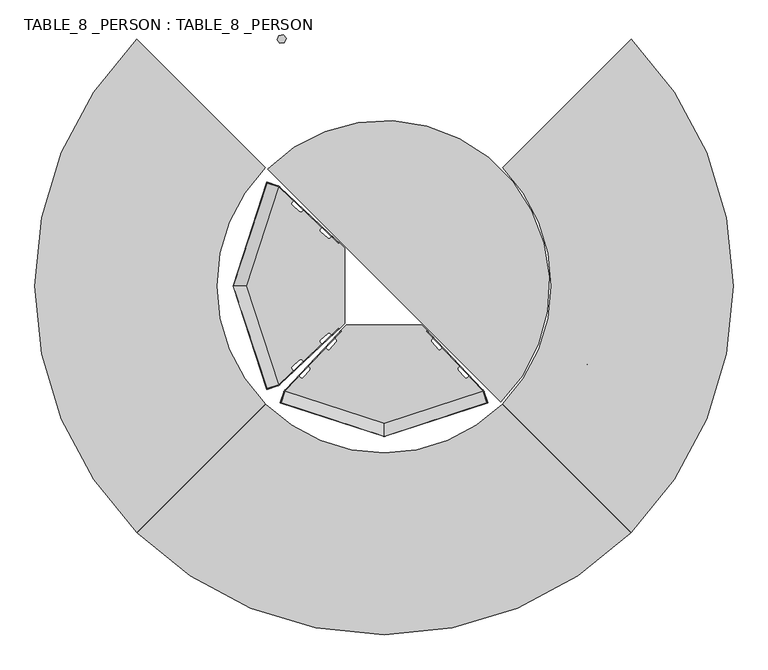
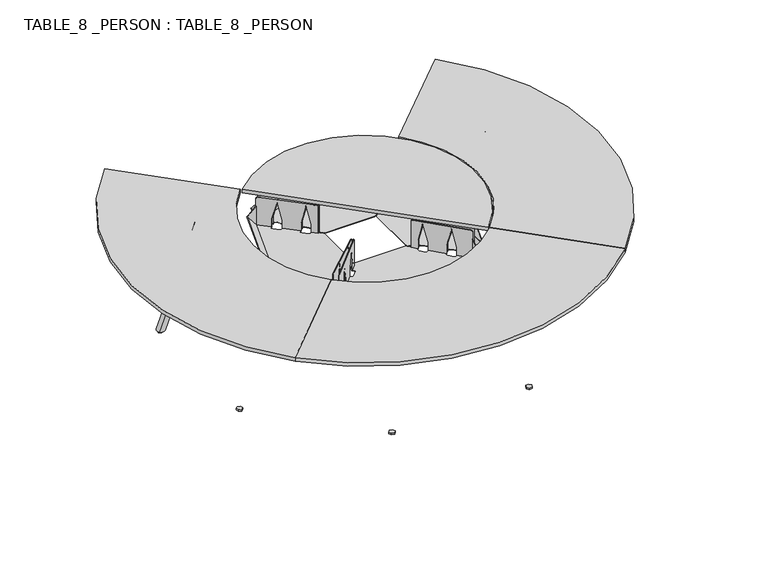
"""IFC4 building model written with IfcOpenShell, lengths in millimetres: furniture geometry, TABLE_8 _PERSON : TABLE_8 _PERSON."""

from ifc_helpers import new_model, si_unit, point, frame, frame_2d, origin, origin_with_axes, origin_2d, place, context, project, spatial, polyline, circle_curve, ellipse_curve, trimmed, segment, composite_curve, outline, extrude, faceted_brep, source, transform, mapped, element, save
from ifc_brep_helpers import plane_surface, cylinder_surface, advanced_brep


def table_8_person_table_8_person_3cccb7cd(model_context):
    return source(origin(), model_context, "Body", "SolidModel", [
        extrude(outline(composite_curve([segment(trimmed(circle_curve(frame_2d((-185.0, 10.6066017)), 10.6066017), [point((-185.0, 0.0))], [point((-195.6066017, 10.6066017))], False, "CARTESIAN"), True, "CONTINUOUS"), segment(polyline([(-195.6066017, 10.6066017), (-195.6066017, 362.2459003)]), True, "CONTINUOUS"), segment(trimmed(circle_curve(frame_2d((-185.0, 362.2459003)), 10.6066017), [point((-195.6066017, 362.2459003))], [point((-185.0, 372.8525021))], False, "CARTESIAN"), True, "CONTINUOUS"), segment(polyline([(-185.0, 372.8525021), (0.0, 372.8525021), (0.0, 277.9086309), (-56.7549269, 277.9086309), (-166.9244078, 249.3102854), (-178.5405648, 249.3102854)]), True, "CONTINUOUS"), segment(trimmed(circle_curve(frame_2d((-178.5405648, 246.2648038)), 3.0454817), [point((-178.5405648, 249.3102854))], [point((-178.5405648, 243.2193221))], True, "CARTESIAN"), True, "CONTINUOUS"), segment(polyline([(-178.5405648, 243.2193221), (-166.9244078, 243.2193221), (-56.7549269, 215.7127867), (0.0, 215.7127867), (0.0, 103.200083), (-56.7549269, 103.200083), (-167.2775765, 74.6455232), (-178.5405648, 74.6455232)]), True, "CONTINUOUS"), segment(trimmed(circle_curve(frame_2d((-178.5405648, 71.6000415)), 3.0454817), [point((-178.5405648, 74.6455232))], [point((-178.5405648, 68.5545599))], True, "CARTESIAN"), True, "CONTINUOUS"), segment(polyline([(-178.5405648, 68.5545599), (-166.9244078, 68.5545599), (-56.7549269, 42.7034974), (0.0, 42.7034974), (0.0, 0.0), (-185.0, 0.0)]), True, "CONTINUOUS")], self_intersect=False)), frame((-201.7755621, -192.7094281, 539.3933983), z_axis=(-0.6857490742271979, 0.7278380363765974, 0.0), x_axis=(0.0, 0.0, -1.0)), (0.0, 0.0, 1.0), 1.9997001),
        extrude(outline(polyline([(0.0, 0.0), (-132.3159489, 0.0), (-65.5066196, 52.2763246), (0.0, 0.0)])), frame((-473.6428903, -447.4124228, 539.3933983), z_axis=(-0.29237170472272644, 0.9563047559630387, 0.0), x_axis=(0.0, 0.0, -1.0)), (0.0, 0.0, 1.0), 1.5425279),
        extrude(outline(polyline([(-83.2876498, 1e-07), (20.1329987, 82.5329014), (0.5212478, -1e-07), (-83.2876498, 1e-07)])), frame((-523.7750547, 461.1263548, 604.4926008), z_axis=(0.29237170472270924, 0.956304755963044, 0.0), x_axis=(-0.5965010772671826, 0.18236868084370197, 0.7816189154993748)), (0.0, 0.0, 1.0), 1.5425279),
        extrude(outline(composite_curve([segment(trimmed(circle_curve(frame_2d((0.0, 10.6066018)), 10.6066017), [point((0.0, 21.2132035))], [point((10.6066017, 10.6066018))], False, "CARTESIAN"), True, "CONTINUOUS"), segment(polyline([(10.6066017, 10.6066018), (10.6066017, -341.0326968)]), True, "CONTINUOUS"), segment(trimmed(circle_curve(frame_2d((0.0, -341.0326968)), 10.6066017), [point((10.6066017, -341.0326968))], [point((0.0, -351.6392985))], False, "CARTESIAN"), True, "CONTINUOUS"), segment(polyline([(0.0, -351.6392985), (-185.0, -351.6392985), (-185.0, -256.6954274), (-128.2450731, -256.6954274), (-18.0755922, -228.0970819), (-6.4594352, -228.0970819)]), True, "CONTINUOUS"), segment(trimmed(circle_curve(frame_2d((-6.4594352, -225.0516002)), 3.0454817), [point((-6.4594352, -228.0970819))], [point((-6.4594352, -222.0061186))], True, "CARTESIAN"), True, "CONTINUOUS"), segment(polyline([(-6.4594352, -222.0061186), (-18.0755922, -222.0061186), (-128.2450731, -194.4995832), (-185.0, -194.4995832), (-185.0, -81.9868795), (-128.2450731, -81.9868795), (-17.7224235, -53.4323196), (-6.4594352, -53.4323196)]), True, "CONTINUOUS"), segment(trimmed(circle_curve(frame_2d((-6.4594352, -50.386838)), 3.0454817), [point((-6.4594352, -53.4323196))], [point((-6.4594352, -47.3413563))], True, "CARTESIAN"), True, "CONTINUOUS"), segment(polyline([(-6.4594352, -47.3413563), (-18.0755922, -47.3413563), (-128.2450731, -21.4902939), (-185.0, -21.4902939), (-185.0, 21.2132035), (0.0, 21.2132035)]), True, "CONTINUOUS")], self_intersect=False)), frame((-218.586631, 205.800905, 724.3933983), z_axis=(0.6857490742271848, 0.7278380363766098, 0.0), x_axis=(0.0, 0.0, 1.0)), (0.0, 0.0, 1.0), 1.9997001),
        faceted_brep([(-472.1347867, -447.4809246, 540.6789735), (-524.0859796, -464.3608904, 605.778176), (-525.5430827, -464.8343319, 604.4926008), (-473.5918898, -447.9543661, 539.3933983), (-619.1410863, 0.0, 539.3933983), (-617.5301528, 0.0, 540.6789735), (-676.5769126, 0.0, 604.4926008), (-674.965979, 0.0, 605.778176), (-472.1347867, 447.4809246, 540.6789735), (-473.5918898, 447.9543661, 539.3933983), (-525.5430827, 464.8343319, 604.4926008), (-524.0859796, 464.3608904, 605.778176)], [[[0, 1, 2, 3]], [[3, 4, 5, 0]], [[2, 6, 4, 3]], [[1, 7, 6, 2]], [[0, 5, 7, 1]], [[8, 9, 10, 11]], [[4, 9, 8, 5]], [[6, 10, 9, 4]], [[7, 11, 10, 6]], [[5, 8, 11, 7]]]),
        extrude(outline(composite_curve([segment(trimmed(circle_curve(frame_2d((-192.9679442, -161.0978547)), 18.7707035), [point((-175.0, -166.528535))], [point((-179.6950525, -174.3707464))], False, "CARTESIAN"), True, "CONTINUOUS"), segment(polyline([(-179.6950525, -174.3707464), (-231.6222067, -222.7110836), (-241.277154, -213.0561363)]), True, "CONTINUOUS"), segment(trimmed(circle_curve(frame_2d((-247.0943708, -220.2446609)), 9.2474265), [point((-241.277154, -213.0561363))], [point((-253.1635364, -213.2675465))], True, "CARTESIAN"), True, "CONTINUOUS"), segment(polyline([(-253.1635364, -213.2675465), (-286.4779331, -242.2055735)]), True, "CONTINUOUS"), segment(trimmed(circle_curve(frame_2d((-281.3853407, -248.0683312)), 7.7657212), [point((-286.4779331, -242.2055735))], [point((-287.2445195, -253.165041))], True, "CARTESIAN"), True, "CONTINUOUS"), segment(polyline([(-287.2445195, -253.165041), (-276.1999226, -264.2096378), (-358.7148291, -341.0249085), (-367.0650384, -332.6746992)]), True, "CONTINUOUS"), segment(trimmed(circle_curve(frame_2d((-372.8822551, -339.8632238)), 9.2474265), [point((-367.0650384, -332.6746992))], [point((-378.9515373, -332.8862108))], True, "CARTESIAN"), True, "CONTINUOUS"), segment(polyline([(-378.9515373, -332.8862108), (-411.8135775, -361.4727982)]), True, "CONTINUOUS"), segment(trimmed(circle_curve(frame_2d((-407.2602366, -367.7635463)), 7.7657212), [point((-411.8135775, -361.4727982))], [point((-413.1891165, -372.7790034))], True, "CARTESIAN"), True, "CONTINUOUS"), segment(polyline([(-413.1891165, -372.7790034), (-404.0772704, -383.253984), (-473.571125, -447.9476192), (-619.1181294, 0.0), (-473.571125, 447.9476192), (-404.0772704, 383.253984), (-413.1891165, 372.7790034)]), True, "CONTINUOUS"), segment(trimmed(circle_curve(frame_2d((-407.2602366, 367.7635463)), 7.7657212), [point((-413.1891165, 372.7790034))], [point((-411.8135775, 361.4727982))], True, "CARTESIAN"), True, "CONTINUOUS"), segment(polyline([(-411.8135775, 361.4727982), (-378.9515373, 332.8862108)]), True, "CONTINUOUS"), segment(trimmed(circle_curve(frame_2d((-372.8822551, 339.8632238)), 9.2474265), [point((-378.9515373, 332.8862108))], [point((-367.0650384, 332.6746992))], True, "CARTESIAN"), True, "CONTINUOUS"), segment(polyline([(-367.0650384, 332.6746992), (-358.7148291, 341.0249085), (-276.1999226, 264.2096378), (-287.2445195, 253.165041)]), True, "CONTINUOUS"), segment(trimmed(circle_curve(frame_2d((-281.3853407, 248.0683312)), 7.7657212), [point((-287.2445195, 253.165041))], [point((-286.4779331, 242.2055735))], True, "CARTESIAN"), True, "CONTINUOUS"), segment(polyline([(-286.4779331, 242.2055735), (-253.1635364, 213.2675465)]), True, "CONTINUOUS"), segment(trimmed(circle_curve(frame_2d((-247.0943708, 220.2446609)), 9.2474265), [point((-253.1635364, 213.2675465))], [point((-241.277154, 213.0561363))], True, "CARTESIAN"), True, "CONTINUOUS"), segment(polyline([(-241.277154, 213.0561363), (-231.6222067, 222.7110836), (-179.6950525, 174.3707464)]), True, "CONTINUOUS"), segment(trimmed(circle_curve(frame_2d((-192.9679442, 161.0978547)), 18.7707035), [point((-179.6950525, 174.3707464))], [point((-175.0, 166.528535))], False, "CARTESIAN"), True, "CONTINUOUS"), segment(polyline([(-175.0, 166.528535), (-175.0, -166.528535)]), True, "CONTINUOUS")], self_intersect=False)), frame((0.0, 0.0, 537.3933983), z_axis=(0.0, 0.0, 1.0), x_axis=(1.0, 0.0, 0.0)), (0.0, 0.0, 1.0), 2.0),
        extrude(outline(composite_curve([segment(polyline([(-185.0, 0.0), (0.0, 0.0), (0.0, -42.7034974), (-56.7549269, -42.7034974), (-166.9244078, -68.5545599), (-178.5405648, -68.5545599)]), True, "CONTINUOUS"), segment(trimmed(circle_curve(frame_2d((-178.5405648, -71.6000415)), 3.0454817), [point((-178.5405648, -68.5545599))], [point((-178.5405648, -74.6455232))], True, "CARTESIAN"), True, "CONTINUOUS"), segment(polyline([(-178.5405648, -74.6455232), (-167.2775765, -74.6455232), (-56.7549269, -103.200083), (0.0, -103.200083), (0.0, -215.7127867), (-56.7549269, -215.7127867), (-166.9244078, -243.2193221), (-178.5405648, -243.2193221)]), True, "CONTINUOUS"), segment(trimmed(circle_curve(frame_2d((-178.5405648, -246.2648038)), 3.0454817), [point((-178.5405648, -243.2193221))], [point((-178.5405648, -249.3102854))], True, "CARTESIAN"), True, "CONTINUOUS"), segment(polyline([(-178.5405648, -249.3102854), (-166.9244078, -249.3102854), (-56.7549269, -277.9086309), (0.0, -277.9086309), (0.0, -372.8525021), (-185.0, -372.8525021)]), True, "CONTINUOUS"), segment(trimmed(circle_curve(frame_2d((-185.0, -362.2459003)), 10.6066017), [point((-185.0, -372.8525021))], [point((-195.6066017, -362.2459003))], False, "CARTESIAN"), True, "CONTINUOUS"), segment(polyline([(-195.6066017, -362.2459003), (-195.6066017, -10.6066017)]), True, "CONTINUOUS"), segment(trimmed(circle_curve(frame_2d((-185.0, -10.6066017)), 10.6066017), [point((-195.6066017, -10.6066017))], [point((-185.0, 0.0))], False, "CARTESIAN"), True, "CONTINUOUS")], self_intersect=False)), frame((201.7755621, -192.7094281, 539.3933983), z_axis=(0.6857490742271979, 0.7278380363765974, 0.0), x_axis=(0.0, 0.0, -1.0)), (0.0, 0.0, 1.0), 1.9997001),
        extrude(outline(polyline([(0.0, 0.0), (-65.5066196, -52.2763246), (-132.3159489, 0.0), (0.0, 0.0)])), frame((473.6428903, -447.4124228, 539.3933983), z_axis=(0.29237170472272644, 0.9563047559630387, 0.0), x_axis=(0.0, 0.0, -1.0)), (0.0, 0.0, 1.0), 1.5425279),
        extrude(outline(polyline([(-83.2876498, -1e-07), (0.5212478, 1e-07), (20.1329987, -82.5329014), (-83.2876498, -1e-07)])), frame((523.7750547, 461.1263548, 604.4926008), z_axis=(-0.29237170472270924, 0.956304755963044, 0.0), x_axis=(0.5965010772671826, 0.18236868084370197, 0.7816189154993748)), (0.0, 0.0, 1.0), 1.5425279),
        extrude(outline(composite_curve([segment(polyline([(0.0, -21.2132035), (-185.0, -21.2132035), (-185.0, 21.4902939), (-128.2450731, 21.4902939), (-18.0755922, 47.3413563), (-6.4594352, 47.3413563)]), True, "CONTINUOUS"), segment(trimmed(circle_curve(frame_2d((-6.4594352, 50.386838)), 3.0454817), [point((-6.4594352, 47.3413563))], [point((-6.4594352, 53.4323196))], True, "CARTESIAN"), True, "CONTINUOUS"), segment(polyline([(-6.4594352, 53.4323196), (-17.7224235, 53.4323196), (-128.2450731, 81.9868795), (-185.0, 81.9868795), (-185.0, 194.4995832), (-128.2450731, 194.4995832), (-18.0755922, 222.0061186), (-6.4594352, 222.0061186)]), True, "CONTINUOUS"), segment(trimmed(circle_curve(frame_2d((-6.4594352, 225.0516002)), 3.0454817), [point((-6.4594352, 222.0061186))], [point((-6.4594352, 228.0970819))], True, "CARTESIAN"), True, "CONTINUOUS"), segment(polyline([(-6.4594352, 228.0970819), (-18.0755922, 228.0970819), (-128.2450731, 256.6954274), (-185.0, 256.6954274), (-185.0, 351.6392985), (0.0, 351.6392985)]), True, "CONTINUOUS"), segment(trimmed(circle_curve(frame_2d((0.0, 341.0326968)), 10.6066017), [point((0.0, 351.6392985))], [point((10.6066017, 341.0326968))], False, "CARTESIAN"), True, "CONTINUOUS"), segment(polyline([(10.6066017, 341.0326968), (10.6066017, -10.6066018)]), True, "CONTINUOUS"), segment(trimmed(circle_curve(frame_2d((0.0, -10.6066018)), 10.6066017), [point((10.6066017, -10.6066018))], [point((0.0, -21.2132035))], False, "CARTESIAN"), True, "CONTINUOUS")], self_intersect=False)), frame((218.586631, 205.800905, 724.3933983), z_axis=(-0.6857490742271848, 0.7278380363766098, 0.0), x_axis=(0.0, 0.0, 1.0)), (0.0, 0.0, 1.0), 1.9997001),
        faceted_brep([(472.1347867, -447.4809246, 540.6789735), (473.5918898, -447.9543661, 539.3933983), (525.5430827, -464.8343319, 604.4926008), (524.0859796, -464.3608904, 605.778176), (617.5301528, 0.0, 540.6789735), (619.1410863, 0.0, 539.3933983), (676.5769126, 0.0, 604.4926008), (674.965979, 0.0, 605.778176), (472.1347867, 447.4809246, 540.6789735), (524.0859796, 464.3608904, 605.778176), (525.5430827, 464.8343319, 604.4926008), (473.5918898, 447.9543661, 539.3933983)], [[[0, 1, 2, 3]], [[1, 0, 4, 5]], [[2, 1, 5, 6]], [[3, 2, 6, 7]], [[0, 3, 7, 4]], [[8, 9, 10, 11]], [[5, 4, 8, 11]], [[6, 5, 11, 10]], [[7, 6, 10, 9]], [[4, 7, 9, 8]]]),
        extrude(outline(composite_curve([segment(polyline([(175.0, -166.528535), (175.0, 166.528535)]), True, "CONTINUOUS"), segment(trimmed(circle_curve(frame_2d((192.9679442, 161.0978547)), 18.7707035), [point((175.0, 166.528535))], [point((179.6950525, 174.3707464))], False, "CARTESIAN"), True, "CONTINUOUS"), segment(polyline([(179.6950525, 174.3707464), (231.6222067, 222.7110836), (241.277154, 213.0561363)]), True, "CONTINUOUS"), segment(trimmed(circle_curve(frame_2d((247.0943708, 220.2446609)), 9.2474265), [point((241.277154, 213.0561363))], [point((253.1635364, 213.2675465))], True, "CARTESIAN"), True, "CONTINUOUS"), segment(polyline([(253.1635364, 213.2675465), (286.4779331, 242.2055735)]), True, "CONTINUOUS"), segment(trimmed(circle_curve(frame_2d((281.3853407, 248.0683312)), 7.7657212), [point((286.4779331, 242.2055735))], [point((287.2445195, 253.165041))], True, "CARTESIAN"), True, "CONTINUOUS"), segment(polyline([(287.2445195, 253.165041), (276.1999226, 264.2096378), (358.7148291, 341.0249085), (367.0650384, 332.6746992)]), True, "CONTINUOUS"), segment(trimmed(circle_curve(frame_2d((372.8822551, 339.8632238)), 9.2474265), [point((367.0650384, 332.6746992))], [point((378.9515373, 332.8862108))], True, "CARTESIAN"), True, "CONTINUOUS"), segment(polyline([(378.9515373, 332.8862108), (411.8135775, 361.4727982)]), True, "CONTINUOUS"), segment(trimmed(circle_curve(frame_2d((407.2602366, 367.7635463)), 7.7657212), [point((411.8135775, 361.4727982))], [point((413.1891165, 372.7790034))], True, "CARTESIAN"), True, "CONTINUOUS"), segment(polyline([(413.1891165, 372.7790034), (404.0772704, 383.253984), (473.571125, 447.9476192), (619.1181294, 0.0), (473.571125, -447.9476192), (404.0772704, -383.253984), (413.1891165, -372.7790034)]), True, "CONTINUOUS"), segment(trimmed(circle_curve(frame_2d((407.2602366, -367.7635463)), 7.7657212), [point((413.1891165, -372.7790034))], [point((411.8135775, -361.4727982))], True, "CARTESIAN"), True, "CONTINUOUS"), segment(polyline([(411.8135775, -361.4727982), (378.9515373, -332.8862108)]), True, "CONTINUOUS"), segment(trimmed(circle_curve(frame_2d((372.8822551, -339.8632238)), 9.2474265), [point((378.9515373, -332.8862108))], [point((367.0650384, -332.6746992))], True, "CARTESIAN"), True, "CONTINUOUS"), segment(polyline([(367.0650384, -332.6746992), (358.7148291, -341.0249085), (276.1999226, -264.2096378), (287.2445195, -253.165041)]), True, "CONTINUOUS"), segment(trimmed(circle_curve(frame_2d((281.3853407, -248.0683312)), 7.7657212), [point((287.2445195, -253.165041))], [point((286.4779331, -242.2055735))], True, "CARTESIAN"), True, "CONTINUOUS"), segment(polyline([(286.4779331, -242.2055735), (253.1635364, -213.2675465)]), True, "CONTINUOUS"), segment(trimmed(circle_curve(frame_2d((247.0943708, -220.2446609)), 9.2474265), [point((253.1635364, -213.2675465))], [point((241.277154, -213.0561363))], True, "CARTESIAN"), True, "CONTINUOUS"), segment(polyline([(241.277154, -213.0561363), (231.6222067, -222.7110836), (179.6950525, -174.3707464)]), True, "CONTINUOUS"), segment(trimmed(circle_curve(frame_2d((192.9679442, -161.0978547)), 18.7707035), [point((179.6950525, -174.3707464))], [point((175.0, -166.528535))], False, "CARTESIAN"), True, "CONTINUOUS")], self_intersect=False)), frame((0.0, 0.0, 537.3933983), z_axis=(0.0, 0.0, 1.0), x_axis=(1.0, 0.0, 0.0)), (0.0, 0.0, 1.0), 2.0),
        extrude(outline(composite_curve([segment(polyline([(185.0, 0.0), (0.0, 0.0), (0.0, 42.7034974), (56.7549269, 42.7034974), (166.9244078, 68.5545599), (178.5405648, 68.5545599)]), True, "CONTINUOUS"), segment(trimmed(circle_curve(frame_2d((178.5405648, 71.6000415)), 3.0454817), [point((178.5405648, 68.5545599))], [point((178.5405648, 74.6455232))], True, "CARTESIAN"), True, "CONTINUOUS"), segment(polyline([(178.5405648, 74.6455232), (167.2775765, 74.6455232), (56.7549269, 103.200083), (0.0, 103.200083), (0.0, 215.7127867), (56.7549269, 215.7127867), (166.9244078, 243.2193221), (178.5405648, 243.2193221)]), True, "CONTINUOUS"), segment(trimmed(circle_curve(frame_2d((178.5405648, 246.2648038)), 3.0454817), [point((178.5405648, 243.2193221))], [point((178.5405648, 249.3102854))], True, "CARTESIAN"), True, "CONTINUOUS"), segment(polyline([(178.5405648, 249.3102854), (166.9244078, 249.3102854), (56.7549269, 277.9086309), (0.0, 277.9086309), (0.0, 372.8525021), (185.0, 372.8525021)]), True, "CONTINUOUS"), segment(trimmed(circle_curve(frame_2d((185.0, 362.2459003)), 10.6066017), [point((185.0, 372.8525021))], [point((195.6066017, 362.2459003))], False, "CARTESIAN"), True, "CONTINUOUS"), segment(polyline([(195.6066017, 362.2459003), (195.6066017, 10.6066017)]), True, "CONTINUOUS"), segment(trimmed(circle_curve(frame_2d((185.0, 10.6066017)), 10.6066017), [point((195.6066017, 10.6066017))], [point((185.0, 0.0))], False, "CARTESIAN"), True, "CONTINUOUS")], self_intersect=False)), frame((191.2539703, -203.1468546, 539.3933983), z_axis=(0.7278380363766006, 0.6857490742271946, 0.0), x_axis=(0.0, 0.0, 1.0)), (0.0, 0.0, 1.0), 1.9997001),
        extrude(outline(polyline([(0.0, 0.0), (65.5066196, 52.2763246), (132.3159489, 0.0), (0.0, 0.0)])), frame((445.937296, -474.0938818, 539.3933983), z_axis=(0.95630475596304, 0.2923717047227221, 0.0), x_axis=(0.0, 0.0, 1.0)), (0.0, 0.0, 1.0), 1.5425279),
        extrude(outline(polyline([(-83.2876498, 1e-07), (20.1329987, 82.5329014), (0.5212478, -1e-07), (-83.2876498, 1e-07)])), frame((-461.1263548, -523.7750547, 604.4926008), z_axis=(-0.9563047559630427, 0.2923717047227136, 0.0), x_axis=(-0.1823686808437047, -0.5965010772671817, 0.7816189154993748)), (0.0, 0.0, 1.0), 1.5425279),
        extrude(outline(composite_curve([segment(trimmed(circle_curve(frame_2d((0.0, 10.6066018)), 10.6066017), [point((0.0, 21.2132035))], [point((10.6066017, 10.6066018))], False, "CARTESIAN"), True, "CONTINUOUS"), segment(polyline([(10.6066017, 10.6066018), (10.6066017, -341.0326968)]), True, "CONTINUOUS"), segment(trimmed(circle_curve(frame_2d((0.0, -341.0326968)), 10.6066017), [point((10.6066017, -341.0326968))], [point((0.0, -351.6392985))], False, "CARTESIAN"), True, "CONTINUOUS"), segment(polyline([(0.0, -351.6392985), (-185.0, -351.6392985), (-185.0, -256.6954274), (-128.2450731, -256.6954274), (-18.0755922, -228.0970819), (-6.4594352, -228.0970819)]), True, "CONTINUOUS"), segment(trimmed(circle_curve(frame_2d((-6.4594352, -225.0516002)), 3.0454817), [point((-6.4594352, -228.0970819))], [point((-6.4594352, -222.0061186))], True, "CARTESIAN"), True, "CONTINUOUS"), segment(polyline([(-6.4594352, -222.0061186), (-18.0755922, -222.0061186), (-128.2450731, -194.4995832), (-185.0, -194.4995832), (-185.0, -81.9868795), (-128.2450731, -81.9868795), (-17.7224235, -53.4323196), (-6.4594352, -53.4323196)]), True, "CONTINUOUS"), segment(trimmed(circle_curve(frame_2d((-6.4594352, -50.386838)), 3.0454817), [point((-6.4594352, -53.4323196))], [point((-6.4594352, -47.3413563))], True, "CARTESIAN"), True, "CONTINUOUS"), segment(polyline([(-6.4594352, -47.3413563), (-18.0755922, -47.3413563), (-128.2450731, -21.4902939), (-185.0, -21.4902939), (-185.0, 21.2132035), (0.0, 21.2132035)]), True, "CONTINUOUS")], self_intersect=False)), frame((-205.800905, -218.586631, 724.3933983), z_axis=(-0.7278380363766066, 0.6857490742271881, 0.0), x_axis=(0.0, 0.0, 1.0)), (0.0, 0.0, 1.0), 1.9997001),
        faceted_brep([(447.4809246, -472.1347867, 540.6789735), (464.3608904, -524.0859796, 605.778176), (464.8343319, -525.5430827, 604.4926008), (447.9543661, -473.5918898, 539.3933983), (0.0, -619.1410863, 539.3933983), (0.0, -617.5301528, 540.6789735), (0.0, -676.5769126, 604.4926008), (0.0, -674.965979, 605.778176), (-447.4809246, -472.1347867, 540.6789735), (-447.9543661, -473.5918898, 539.3933983), (-464.8343319, -525.5430827, 604.4926008), (-464.3608904, -524.0859796, 605.778176)], [[[0, 1, 2, 3]], [[3, 4, 5, 0]], [[2, 6, 4, 3]], [[1, 7, 6, 2]], [[0, 5, 7, 1]], [[8, 9, 10, 11]], [[4, 9, 8, 5]], [[6, 10, 9, 4]], [[7, 11, 10, 6]], [[5, 8, 11, 7]]]),
        extrude(outline(composite_curve([segment(trimmed(circle_curve(frame_2d((161.0978547, -192.9679442)), 18.7707035), [point((166.528535, -175.0))], [point((174.3707464, -179.6950525))], False, "CARTESIAN"), True, "CONTINUOUS"), segment(polyline([(174.3707464, -179.6950525), (222.7110836, -231.6222067), (213.0561363, -241.277154)]), True, "CONTINUOUS"), segment(trimmed(circle_curve(frame_2d((220.2446609, -247.0943708)), 9.2474265), [point((213.0561363, -241.277154))], [point((213.2675465, -253.1635364))], True, "CARTESIAN"), True, "CONTINUOUS"), segment(polyline([(213.2675465, -253.1635364), (242.2055735, -286.4779331)]), True, "CONTINUOUS"), segment(trimmed(circle_curve(frame_2d((248.0683312, -281.3853407)), 7.7657212), [point((242.2055735, -286.4779331))], [point((253.165041, -287.2445195))], True, "CARTESIAN"), True, "CONTINUOUS"), segment(polyline([(253.165041, -287.2445195), (264.2096378, -276.1999226), (341.0249085, -358.7148291), (332.6746992, -367.0650384)]), True, "CONTINUOUS"), segment(trimmed(circle_curve(frame_2d((339.8632238, -372.8822551)), 9.2474265), [point((332.6746992, -367.0650384))], [point((332.8862108, -378.9515373))], True, "CARTESIAN"), True, "CONTINUOUS"), segment(polyline([(332.8862108, -378.9515373), (361.4727982, -411.8135775)]), True, "CONTINUOUS"), segment(trimmed(circle_curve(frame_2d((367.7635463, -407.2602366)), 7.7657212), [point((361.4727982, -411.8135775))], [point((372.7790034, -413.1891165))], True, "CARTESIAN"), True, "CONTINUOUS"), segment(polyline([(372.7790034, -413.1891165), (383.253984, -404.0772704), (447.9476192, -473.571125), (0.0, -619.1181294), (-447.9476192, -473.571125), (-383.253984, -404.0772704), (-372.7790034, -413.1891165)]), True, "CONTINUOUS"), segment(trimmed(circle_curve(frame_2d((-367.7635463, -407.2602366)), 7.7657212), [point((-372.7790034, -413.1891165))], [point((-361.4727982, -411.8135775))], True, "CARTESIAN"), True, "CONTINUOUS"), segment(polyline([(-361.4727982, -411.8135775), (-332.8862108, -378.9515373)]), True, "CONTINUOUS"), segment(trimmed(circle_curve(frame_2d((-339.8632238, -372.8822551)), 9.2474265), [point((-332.8862108, -378.9515373))], [point((-332.6746992, -367.0650384))], True, "CARTESIAN"), True, "CONTINUOUS"), segment(polyline([(-332.6746992, -367.0650384), (-341.0249085, -358.7148291), (-264.2096378, -276.1999226), (-253.165041, -287.2445195)]), True, "CONTINUOUS"), segment(trimmed(circle_curve(frame_2d((-248.0683312, -281.3853407)), 7.7657212), [point((-253.165041, -287.2445195))], [point((-242.2055735, -286.4779331))], True, "CARTESIAN"), True, "CONTINUOUS"), segment(polyline([(-242.2055735, -286.4779331), (-213.2675465, -253.1635364)]), True, "CONTINUOUS"), segment(trimmed(circle_curve(frame_2d((-220.2446609, -247.0943708)), 9.2474265), [point((-213.2675465, -253.1635364))], [point((-213.0561363, -241.277154))], True, "CARTESIAN"), True, "CONTINUOUS"), segment(polyline([(-213.0561363, -241.277154), (-222.7110836, -231.6222067), (-174.3707464, -179.6950525)]), True, "CONTINUOUS"), segment(trimmed(circle_curve(frame_2d((-161.0978547, -192.9679442)), 18.7707035), [point((-174.3707464, -179.6950525))], [point((-166.528535, -175.0))], False, "CARTESIAN"), True, "CONTINUOUS"), segment(polyline([(-166.528535, -175.0), (166.528535, -175.0)]), True, "CONTINUOUS")], self_intersect=False)), frame((0.0, 0.0, 537.3933983), z_axis=(0.0, 0.0, 1.0), x_axis=(1.0, 0.0, 0.0)), (0.0, 0.0, 1.0), 2.0),
        extrude(outline(composite_curve([segment(polyline([(-185.0, 0.0), (0.0, 0.0), (0.0, -42.7034974), (-56.7549269, -42.7034974), (-166.9244078, -68.5545599), (-178.5405648, -68.5545599)]), True, "CONTINUOUS"), segment(trimmed(circle_curve(frame_2d((-178.5405648, -71.6000415)), 3.0454817), [point((-178.5405648, -68.5545599))], [point((-178.5405648, -74.6455232))], True, "CARTESIAN"), True, "CONTINUOUS"), segment(polyline([(-178.5405648, -74.6455232), (-167.2775765, -74.6455232), (-56.7549269, -103.200083), (0.0, -103.200083), (0.0, -215.7127867), (-56.7549269, -215.7127867), (-166.9244078, -243.2193221), (-178.5405648, -243.2193221)]), True, "CONTINUOUS"), segment(trimmed(circle_curve(frame_2d((-178.5405648, -246.2648038)), 3.0454817), [point((-178.5405648, -243.2193221))], [point((-178.5405648, -249.3102854))], True, "CARTESIAN"), True, "CONTINUOUS"), segment(polyline([(-178.5405648, -249.3102854), (-166.9244078, -249.3102854), (-56.7549269, -277.9086309), (0.0, -277.9086309), (0.0, -372.8525021), (-185.0, -372.8525021)]), True, "CONTINUOUS"), segment(trimmed(circle_curve(frame_2d((-185.0, -362.2459003)), 10.6066017), [point((-185.0, -372.8525021))], [point((-195.6066017, -362.2459003))], False, "CARTESIAN"), True, "CONTINUOUS"), segment(polyline([(-195.6066017, -362.2459003), (-195.6066017, -10.6066017)]), True, "CONTINUOUS"), segment(trimmed(circle_curve(frame_2d((-185.0, -10.6066017)), 10.6066017), [point((-195.6066017, -10.6066017))], [point((-185.0, 0.0))], False, "CARTESIAN"), True, "CONTINUOUS")], self_intersect=False)), frame((192.7094281, 201.7755621, 539.3933983), z_axis=(-0.7278380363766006, 0.6857490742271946, 0.0), x_axis=(0.0, 0.0, -1.0)), (0.0, 0.0, 1.0), 1.9997001),
        extrude(outline(polyline([(0.0, 0.0), (-65.5066196, -52.2763246), (-132.3159489, 0.0), (0.0, 0.0)])), frame((447.4124228, 473.6428903, 539.3933983), z_axis=(-0.95630475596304, 0.2923717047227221, 0.0), x_axis=(0.0, 0.0, -1.0)), (0.0, 0.0, 1.0), 1.5425279),
        extrude(outline(polyline([(83.2876498, -1e-07), (-20.1329987, -82.5329014), (-0.5212478, 1e-07), (83.2876498, -1e-07)])), frame((-462.6014816, 523.3240632, 604.4926008), z_axis=(0.9563047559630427, 0.2923717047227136, 0.0), x_axis=(0.1823686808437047, -0.5965010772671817, -0.7816189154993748)), (0.0, 0.0, 1.0), 1.5425279),
        extrude(outline(composite_curve([segment(trimmed(circle_curve(frame_2d((0.0, -10.6066018)), 10.6066017), [point((0.0, -21.2132035))], [point((-10.6066017, -10.6066018))], False, "CARTESIAN"), True, "CONTINUOUS"), segment(polyline([(-10.6066017, -10.6066018), (-10.6066017, 341.0326968)]), True, "CONTINUOUS"), segment(trimmed(circle_curve(frame_2d((0.0, 341.0326968)), 10.6066017), [point((-10.6066017, 341.0326968))], [point((0.0, 351.6392985))], False, "CARTESIAN"), True, "CONTINUOUS"), segment(polyline([(0.0, 351.6392985), (185.0, 351.6392985), (185.0, 256.6954274), (128.2450731, 256.6954274), (18.0755922, 228.0970819), (6.4594352, 228.0970819)]), True, "CONTINUOUS"), segment(trimmed(circle_curve(frame_2d((6.4594352, 225.0516002)), 3.0454817), [point((6.4594352, 228.0970819))], [point((6.4594352, 222.0061186))], True, "CARTESIAN"), True, "CONTINUOUS"), segment(polyline([(6.4594352, 222.0061186), (18.0755922, 222.0061186), (128.2450731, 194.4995832), (185.0, 194.4995832), (185.0, 81.9868795), (128.2450731, 81.9868795), (17.7224235, 53.4323196), (6.4594352, 53.4323196)]), True, "CONTINUOUS"), segment(trimmed(circle_curve(frame_2d((6.4594352, 50.386838)), 3.0454817), [point((6.4594352, 53.4323196))], [point((6.4594352, 47.3413563))], True, "CARTESIAN"), True, "CONTINUOUS"), segment(polyline([(6.4594352, 47.3413563), (18.0755922, 47.3413563), (128.2450731, 21.4902939), (185.0, 21.4902939), (185.0, -21.2132035), (0.0, -21.2132035)]), True, "CONTINUOUS")], self_intersect=False)), frame((-207.2563628, 217.2153385, 724.3933983), z_axis=(0.7278380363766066, 0.6857490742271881, 0.0), x_axis=(0.0, 0.0, -1.0)), (0.0, 0.0, 1.0), 1.9997001),
        faceted_brep([(447.4809246, 472.1347867, 540.6789735), (447.9543661, 473.5918898, 539.3933983), (464.8343319, 525.5430827, 604.4926008), (464.3608904, 524.0859796, 605.778176), (0.0, 617.5301528, 540.6789735), (0.0, 619.1410863, 539.3933983), (0.0, 676.5769126, 604.4926008), (0.0, 674.965979, 605.778176), (-447.4809246, 472.1347867, 540.6789735), (-464.3608904, 524.0859796, 605.778176), (-464.8343319, 525.5430827, 604.4926008), (-447.9543661, 473.5918898, 539.3933983)], [[[0, 1, 2, 3]], [[1, 0, 4, 5]], [[2, 1, 5, 6]], [[3, 2, 6, 7]], [[0, 3, 7, 4]], [[8, 9, 10, 11]], [[5, 4, 8, 11]], [[6, 5, 11, 10]], [[7, 6, 10, 9]], [[4, 7, 9, 8]]]),
        extrude(outline(composite_curve([segment(polyline([(166.528535, 175.0), (-166.528535, 175.0)]), True, "CONTINUOUS"), segment(trimmed(circle_curve(frame_2d((-161.0978547, 192.9679442)), 18.7707035), [point((-166.528535, 175.0))], [point((-174.3707464, 179.6950525))], False, "CARTESIAN"), True, "CONTINUOUS"), segment(polyline([(-174.3707464, 179.6950525), (-222.7110836, 231.6222067), (-213.0561363, 241.277154)]), True, "CONTINUOUS"), segment(trimmed(circle_curve(frame_2d((-220.2446609, 247.0943708)), 9.2474265), [point((-213.0561363, 241.277154))], [point((-213.2675465, 253.1635364))], True, "CARTESIAN"), True, "CONTINUOUS"), segment(polyline([(-213.2675465, 253.1635364), (-242.2055735, 286.4779331)]), True, "CONTINUOUS"), segment(trimmed(circle_curve(frame_2d((-248.0683312, 281.3853407)), 7.7657212), [point((-242.2055735, 286.4779331))], [point((-253.165041, 287.2445195))], True, "CARTESIAN"), True, "CONTINUOUS"), segment(polyline([(-253.165041, 287.2445195), (-264.2096378, 276.1999226), (-341.0249085, 358.7148291), (-332.6746992, 367.0650384)]), True, "CONTINUOUS"), segment(trimmed(circle_curve(frame_2d((-339.8632238, 372.8822551)), 9.2474265), [point((-332.6746992, 367.0650384))], [point((-332.8862108, 378.9515373))], True, "CARTESIAN"), True, "CONTINUOUS"), segment(polyline([(-332.8862108, 378.9515373), (-361.4727982, 411.8135775)]), True, "CONTINUOUS"), segment(trimmed(circle_curve(frame_2d((-367.7635463, 407.2602366)), 7.7657212), [point((-361.4727982, 411.8135775))], [point((-372.7790034, 413.1891165))], True, "CARTESIAN"), True, "CONTINUOUS"), segment(polyline([(-372.7790034, 413.1891165), (-383.253984, 404.0772704), (-447.9476192, 473.571125), (0.0, 619.1181294), (447.9476192, 473.571125), (383.253984, 404.0772704), (372.7790034, 413.1891165)]), True, "CONTINUOUS"), segment(trimmed(circle_curve(frame_2d((367.7635463, 407.2602366)), 7.7657212), [point((372.7790034, 413.1891165))], [point((361.4727982, 411.8135775))], True, "CARTESIAN"), True, "CONTINUOUS"), segment(polyline([(361.4727982, 411.8135775), (332.8862108, 378.9515373)]), True, "CONTINUOUS"), segment(trimmed(circle_curve(frame_2d((339.8632238, 372.8822551)), 9.2474265), [point((332.8862108, 378.9515373))], [point((332.6746992, 367.0650384))], True, "CARTESIAN"), True, "CONTINUOUS"), segment(polyline([(332.6746992, 367.0650384), (341.0249085, 358.7148291), (264.2096378, 276.1999226), (253.165041, 287.2445195)]), True, "CONTINUOUS"), segment(trimmed(circle_curve(frame_2d((248.0683312, 281.3853407)), 7.7657212), [point((253.165041, 287.2445195))], [point((242.2055735, 286.4779331))], True, "CARTESIAN"), True, "CONTINUOUS"), segment(polyline([(242.2055735, 286.4779331), (213.2675465, 253.1635364)]), True, "CONTINUOUS"), segment(trimmed(circle_curve(frame_2d((220.2446609, 247.0943708)), 9.2474265), [point((213.2675465, 253.1635364))], [point((213.0561363, 241.277154))], True, "CARTESIAN"), True, "CONTINUOUS"), segment(polyline([(213.0561363, 241.277154), (222.7110836, 231.6222067), (174.3707464, 179.6950525)]), True, "CONTINUOUS"), segment(trimmed(circle_curve(frame_2d((161.0978547, 192.9679442)), 18.7707035), [point((174.3707464, 179.6950525))], [point((166.528535, 175.0))], False, "CARTESIAN"), True, "CONTINUOUS")], self_intersect=False)), frame((0.0, 0.0, 537.3933983), z_axis=(0.0, 0.0, 1.0), x_axis=(1.0, 0.0, 0.0)), (0.0, 0.0, 1.0), 2.0),
        extrude(outline(composite_curve([segment(polyline([(524.3186033, -522.1972829), (-522.1972829, 524.3186033)]), True, "CONTINUOUS"), segment(trimmed(circle_curve(frame_2d((1.0606602, 1.0606602)), 739.9984797), [point((-522.1972829, 524.3186033))], [point((524.3186033, -522.1972829))], False, "CARTESIAN"), True, "CONTINUOUS")], self_intersect=False)), frame((0.0, 0.0, 735.0), z_axis=(0.0, 0.0, 1.0), x_axis=(1.0, 0.0, 0.0)), (0.0, 0.0, 1.0), 25.0),
        extrude(outline(composite_curve([segment(polyline([(-1105.5609441, -1107.6822644), (-529.2683651, -531.3896854)]), True, "CONTINUOUS"), segment(trimmed(circle_curve(origin_2d(), 750.0), [point((-529.2683651, -531.3896854))], [point((529.2683651, -531.3896854))], True, "CARTESIAN"), True, "CONTINUOUS"), segment(polyline([(529.2683651, -531.3896854), (1105.5609441, -1107.6822644)]), True, "CONTINUOUS"), segment(trimmed(circle_curve(origin_2d(), 1565.0), [point((1105.5609441, -1107.6822644))], [point((-1105.5609441, -1107.6822644))], False, "CARTESIAN"), True, "CONTINUOUS")], self_intersect=False)), frame((0.0, 0.0, 735.0), z_axis=(0.0, 0.0, 1.0), x_axis=(1.0, 0.0, 0.0)), (0.0, 0.0, 1.0), 25.0),
        extrude(outline(composite_curve([segment(trimmed(circle_curve(origin_2d(), 1565.0), [point((-1107.6822644, -1105.5609441))], [point((-1107.6822644, 1105.5609441))], False, "CARTESIAN"), True, "CONTINUOUS"), segment(polyline([(-1107.6822644, 1105.5609441), (-531.3896854, 529.2683651)]), True, "CONTINUOUS"), segment(trimmed(circle_curve(origin_2d(), 750.0), [point((-531.3896854, 529.2683651))], [point((-531.3896854, -529.2683651))], True, "CARTESIAN"), True, "CONTINUOUS"), segment(polyline([(-531.3896854, -529.2683651), (-1107.6822644, -1105.5609441)]), True, "CONTINUOUS")], self_intersect=False)), frame((0.0, 0.0, 735.0), z_axis=(0.0, 0.0, 1.0), x_axis=(1.0, 0.0, 0.0)), (0.0, 0.0, 1.0), 25.0),
        extrude(outline(composite_curve([segment(trimmed(circle_curve(origin_2d(), 1565.0), [point((1107.6822644, 1105.5609441))], [point((1107.6822644, -1105.5609441))], False, "CARTESIAN"), True, "CONTINUOUS"), segment(polyline([(1107.6822644, -1105.5609441), (531.3896854, -529.2683651)]), True, "CONTINUOUS"), segment(trimmed(circle_curve(origin_2d(), 750.0), [point((531.3896854, -529.2683651))], [point((531.3896854, 529.2683651))], True, "CARTESIAN"), True, "CONTINUOUS"), segment(polyline([(531.3896854, 529.2683651), (1107.6822644, 1105.5609441)]), True, "CONTINUOUS")], self_intersect=False)), frame((0.0, 0.0, 735.0), z_axis=(0.0, 0.0, 1.0), x_axis=(1.0, 0.0, 0.0)), (0.0, 0.0, 1.0), 25.0),
        extrude(outline(polyline([(1104.3515591, -478.8570054), (1088.591344, -466.5437759), (1091.374806, -446.7384145), (1109.9184831, -439.2462826), (1125.6786982, -451.5595121), (1122.8952362, -471.3648735), (1104.3515591, -478.8570054)])), origin_with_axes(), (0.0, 0.0, 1.0), 10.0),
        extrude(outline(polyline([(1104.3515591, 478.8570054), (1122.8952362, 471.3648735), (1125.6786982, 451.5595121), (1109.9184831, 439.2462826), (1091.374806, 446.7384145), (1088.591344, 466.5437759), (1104.3515591, 478.8570054)])), origin_with_axes(), (0.0, 0.0, 1.0), 10.0),
        extrude(outline(polyline([(-1104.3515591, 478.8570054), (-1088.591344, 466.5437759), (-1091.374806, 446.7384145), (-1109.9184831, 439.2462826), (-1125.6786982, 451.5595121), (-1122.8952362, 471.3648735), (-1104.3515591, 478.8570054)])), origin_with_axes(), (0.0, 0.0, 1.0), 10.0),
        extrude(outline(polyline([(-1104.3515591, -478.8570054), (-1122.8952362, -471.3648735), (-1125.6786982, -451.5595121), (-1109.9184831, -439.2462826), (-1091.374806, -446.7384145), (-1088.591344, -466.5437759), (-1104.3515591, -478.8570054)])), origin_with_axes(), (0.0, 0.0, 1.0), 10.0),
        extrude(outline(polyline([(-478.8570054, -1104.3515591), (-466.5437759, -1088.591344), (-446.7384145, -1091.374806), (-439.2462826, -1109.9184831), (-451.5595121, -1125.6786982), (-471.3648735, -1122.8952362), (-478.8570054, -1104.3515591)])), origin_with_axes(), (0.0, 0.0, 1.0), 10.0),
        extrude(outline(polyline([(478.8570054, -1104.3515591), (471.3648735, -1122.8952362), (451.5595121, -1125.6786982), (439.2462826, -1109.9184831), (446.7384145, -1091.374806), (466.5437759, -1088.591344), (478.8570054, -1104.3515591)])), origin_with_axes(), (0.0, 0.0, 1.0), 10.0),
        extrude(outline(polyline([(-478.8570054, 1104.3515591), (-471.3648735, 1122.8952362), (-451.5595121, 1125.6786982), (-439.2462826, 1109.9184831), (-446.7384145, 1091.374806), (-466.5437759, 1088.591344), (-478.8570054, 1104.3515591)])), origin_with_axes(), (0.0, 0.0, 1.0), 10.0),
        advanced_brep(
        [(1126.3712714, 475.6916795, 10.0), (1132.8256985, 459.7164119, 10.0), (916.6958189, 356.0240826, 738.4821089), (885.2613931, 394.6471551, 733.9948891), (1090.4911757, 477.5653696, 10.0), (1123.1975872, 439.4562127, 10.0)],
        [
            (0, 1, circle_curve(frame((1108.7894298, 459.2966417, 3.138398), z_axis=(0.2710823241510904, 0.10952436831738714, -0.9563047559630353), x_axis=(-0.6286885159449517, 0.7724614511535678, -0.08974439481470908)), 25.0)),
            (1, 0),
            (2, 3, circle_curve(frame((900.978606, 375.3356188, 736.238499), z_axis=(-0.2710823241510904, -0.10952436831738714, 0.9563047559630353), x_axis=(-0.6286885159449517, 0.7724614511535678, -0.08974439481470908)), 25.0)),
            (3, 2, circle_curve(frame((900.978606, 375.3356188, 736.238499), z_axis=(-0.2710823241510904, -0.10952436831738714, 0.9563047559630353), x_axis=(-0.6286885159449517, 0.7724614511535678, -0.08974439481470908)), 25.0)),
            (3, 4),
            (4, 5, ellipse_curve(frame((1106.8443815, 458.5107911, 10.0), z_axis=(0.0, 0.0, 1.0), x_axis=(0.9271838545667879, 0.37460659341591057, 0.0)), 26.1422939, 25.0)),
            (5, 2),
            (5, 1, ellipse_curve(frame((1106.8443815, 458.5107911, 10.0), z_axis=(0.0, 0.0, 1.0), x_axis=(0.9271838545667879, 0.37460659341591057, 0.0)), 26.1422939, 25.0)),
            (0, 4, ellipse_curve(frame((1106.8443815, 458.5107911, 10.0), z_axis=(0.0, 0.0, 1.0), x_axis=(0.9271838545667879, 0.37460659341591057, 0.0)), 26.1422939, 25.0)),
        ],
        [
            plane_surface(frame((1093.0722169, 478.608178, 0.8947881), z_axis=(0.27108232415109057, 0.10952436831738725, -0.9563047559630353), x_axis=(0.7288793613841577, 0.6255459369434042, 0.27825735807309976))),
            plane_surface(frame((885.2613931, 394.6471551, 733.9948891), z_axis=(-0.27108232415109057, -0.10952436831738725, 0.9563047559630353), x_axis=(-0.7288793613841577, -0.6255459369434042, -0.27825735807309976))),
            cylinder_surface(frame((900.978606, 375.3356188, 736.238499), z_axis=(0.2710823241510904, 0.10952436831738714, -0.9563047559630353), x_axis=(-0.6286885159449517, 0.7724614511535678, -0.08974439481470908)), 25.0),
            plane_surface(frame((1165.4727181, 400.7364862, 10.0), z_axis=(0.0, 0.0, -1.0), x_axis=(-0.3746065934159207, 0.927183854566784, 0.0))),
        ],
        [
            (0, [[1, 2]]),
            (1, [[3, 4]]),
            (2, [[-4, 5, 6, 7]]),
            (2, [[-3, -7, 8, -1, 9, -5]]),
            (3, [[-2, -8, -6, -9]]),
        ],
    ),
        advanced_brep(
        [(-1132.8256985, 459.7164119, 10.0), (-1126.3712714, 475.6916795, 10.0), (-916.5311706, 355.9575604, 739.062943), (-885.0967448, 394.5806329, 734.5757233), (-1123.1975872, 439.4562127, 10.0), (-1090.4911757, 477.5653696, 10.0)],
        [
            (0, 1, circle_curve(frame((-1108.7894298, 459.2966417, 3.138398), z_axis=(-0.2710823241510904, 0.10952436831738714, -0.9563047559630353), x_axis=(0.6286885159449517, 0.7724614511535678, -0.08974439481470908)), 25.0)),
            (1, 0),
            (2, 3, circle_curve(frame((-900.8139577, 375.2690966, 736.8193332), z_axis=(0.2710823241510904, -0.10952436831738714, 0.9563047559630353), x_axis=(0.6286885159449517, 0.7724614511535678, -0.08974439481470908)), 25.0)),
            (3, 2, circle_curve(frame((-900.8139577, 375.2690966, 736.8193332), z_axis=(0.2710823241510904, -0.10952436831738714, 0.9563047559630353), x_axis=(0.6286885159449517, 0.7724614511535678, -0.08974439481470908)), 25.0)),
            (2, 4),
            (4, 5, ellipse_curve(frame((-1106.8443815, 458.5107911, 10.0), z_axis=(0.0, 0.0, 1.0), x_axis=(-0.9271838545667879, 0.37460659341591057, 0.0)), 26.1422939, 25.0)),
            (5, 3),
            (5, 1, ellipse_curve(frame((-1106.8443815, 458.5107911, 10.0), z_axis=(0.0, 0.0, 1.0), x_axis=(-0.9271838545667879, 0.37460659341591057, 0.0)), 26.1422939, 25.0)),
            (0, 4, ellipse_curve(frame((-1106.8443815, 458.5107911, 10.0), z_axis=(0.0, 0.0, 1.0), x_axis=(-0.9271838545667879, 0.37460659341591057, 0.0)), 26.1422939, 25.0)),
        ],
        [
            plane_surface(frame((-1093.0722169, 478.608178, 0.8947881), z_axis=(-0.27108232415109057, 0.10952436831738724, -0.9563047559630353), x_axis=(0.7288793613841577, -0.6255459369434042, -0.27825735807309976))),
            plane_surface(frame((-885.0967448, 394.5806329, 734.5757233), z_axis=(0.27108232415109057, -0.10952436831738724, 0.9563047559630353), x_axis=(-0.7288793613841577, 0.6255459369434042, 0.27825735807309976))),
            cylinder_surface(frame((-900.8139577, 375.2690966, 736.8193332), z_axis=(-0.2710823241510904, 0.10952436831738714, -0.9563047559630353), x_axis=(0.6286885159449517, 0.7724614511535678, -0.08974439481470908)), 25.0),
            plane_surface(frame((-1100.5698483, 374.5140247, 10.0), z_axis=(0.0, 0.0, -1.0), x_axis=(0.37460659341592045, 0.927183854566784, 0.0))),
        ],
        [
            (0, [[1, 2]]),
            (1, [[3, 4]]),
            (2, [[-3, 5, 6, 7]]),
            (2, [[-4, -7, 8, -1, 9, -5]]),
            (3, [[-2, -8, -6, -9]]),
        ],
    ),
        extrude(outline(composite_curve([segment(trimmed(circle_curve(frame_2d((22.5000001, -2.5)), 2.5), [point((22.5000001, 0.0))], [point((25.0, -2.5))], False, "CARTESIAN"), True, "CONTINUOUS"), segment(trimmed(circle_curve(frame_2d((22.5000001, -2.5)), 2.5), [point((25.0, -2.5))], [point((22.5000001, -5.0))], False, "CARTESIAN"), True, "CONTINUOUS"), segment(polyline([(22.5000001, -5.0), (-1.4425329, -5.0)]), True, "CONTINUOUS"), segment(trimmed(circle_curve(frame_2d((-1.4425329, -1.4425329)), 3.5574671), [point((-1.4425329, -5.0))], [point((-4.9999999, -1.4425329))], False, "CARTESIAN"), True, "CONTINUOUS"), segment(polyline([(-4.9999999, -1.4425329), (-4.9999999, 32.5)]), True, "CONTINUOUS"), segment(trimmed(circle_curve(frame_2d((-7.5, 32.5)), 2.5), [point((-4.9999999, 32.5))], [point((-7.5, 35.0))], True, "CARTESIAN"), True, "CONTINUOUS"), segment(polyline([(-7.5, 35.0), (-142.4999999, 35.0)]), True, "CONTINUOUS"), segment(trimmed(circle_curve(frame_2d((-142.4999999, 37.5)), 2.5), [point((-142.4999999, 35.0))], [point((-145.0, 37.5))], False, "CARTESIAN"), True, "CONTINUOUS"), segment(trimmed(circle_curve(frame_2d((-142.4999999, 37.5)), 2.5), [point((-145.0, 37.5))], [point((-142.4999999, 40.0))], False, "CARTESIAN"), True, "CONTINUOUS"), segment(polyline([(-142.4999999, 40.0), (-2.5, 40.0)]), True, "CONTINUOUS"), segment(trimmed(circle_curve(frame_2d((-2.5, 37.5)), 2.5), [point((-2.5, 40.0))], [point((0.0, 37.5))], False, "CARTESIAN"), True, "CONTINUOUS"), segment(polyline([(0.0, 37.5), (0.0, 3.5394106)]), True, "CONTINUOUS"), segment(trimmed(circle_curve(frame_2d((3.5394107, 3.5394106)), 3.5394106), [point((0.0, 3.5394106))], [point((3.5394107, 0.0))], True, "CARTESIAN"), True, "CONTINUOUS"), segment(polyline([(3.5394107, 0.0), (22.5000001, 0.0)]), True, "CONTINUOUS")], self_intersect=False)), frame((880.3886968, 300.8332929, 695.0), z_axis=(-0.374606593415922, 0.9271838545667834, 0.0), x_axis=(-0.9271838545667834, -0.374606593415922, 0.0)), (0.0, 0.0, 1.0), 122.728476),
        extrude(outline(composite_curve([segment(polyline([(2.5, -2.4999999), (2.5, -21.4605894)]), True, "CONTINUOUS"), segment(trimmed(circle_curve(frame_2d((6.0394106, -21.4605894)), 3.5394106), [point((2.5, -21.4605894))], [point((6.0394106, -25.0))], True, "CARTESIAN"), True, "CONTINUOUS"), segment(polyline([(6.0394106, -25.0), (40.0, -25.0)]), True, "CONTINUOUS"), segment(trimmed(circle_curve(frame_2d((40.0, -27.5)), 2.5), [point((40.0, -25.0))], [point((42.5, -27.5))], False, "CARTESIAN"), True, "CONTINUOUS"), segment(polyline([(42.5, -27.5), (42.5, -167.5)]), True, "CONTINUOUS"), segment(trimmed(circle_curve(frame_2d((40.0, -167.5)), 2.5), [point((42.5, -167.5))], [point((40.0, -170.0))], False, "CARTESIAN"), True, "CONTINUOUS"), segment(trimmed(circle_curve(frame_2d((40.0, -167.5)), 2.5), [point((40.0, -170.0))], [point((37.5, -167.5))], False, "CARTESIAN"), True, "CONTINUOUS"), segment(polyline([(37.5, -167.5), (37.5, -32.5)]), True, "CONTINUOUS"), segment(trimmed(circle_curve(frame_2d((35.0, -32.5)), 2.5), [point((37.5, -32.5))], [point((35.0, -30.0))], True, "CARTESIAN"), True, "CONTINUOUS"), segment(polyline([(35.0, -30.0), (1.0574671, -30.0)]), True, "CONTINUOUS"), segment(trimmed(circle_curve(frame_2d((1.0574671, -26.4425329)), 3.5574671), [point((1.0574671, -30.0))], [point((-2.5, -26.4425329))], False, "CARTESIAN"), True, "CONTINUOUS"), segment(polyline([(-2.5, -26.4425329), (-2.5, -2.4999999)]), True, "CONTINUOUS"), segment(trimmed(circle_curve(frame_2d((0.0, -2.4999999)), 2.5), [point((-2.5, -2.4999999))], [point((0.0, 0.0))], False, "CARTESIAN"), True, "CONTINUOUS"), segment(trimmed(circle_curve(frame_2d((0.0, -2.4999999)), 2.5), [point((0.0, 0.0))], [point((2.5, -2.4999999))], False, "CARTESIAN"), True, "CONTINUOUS")], self_intersect=False)), frame((-857.2091004, 291.4681281, 692.5), z_axis=(0.37460659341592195, 0.9271838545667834, 0.0), x_axis=(0.0, 0.0, 1.0)), (0.0, 0.0, 1.0), 122.728476),
        advanced_brep(
        [(1132.8256985, -459.7164119, 10.0), (1126.3712714, -475.6916795, 10.0), (916.2504284, -355.8441331, 740.0533254), (884.8160026, -394.4672057, 735.5661057), (1123.1975872, -439.4562127, 10.0), (1090.4911757, -477.5653696, 10.0)],
        [
            (0, 1, circle_curve(frame((1108.7894298, -459.2966417, 3.138398), z_axis=(0.2710823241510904, -0.10952436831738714, -0.9563047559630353), x_axis=(-0.6286885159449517, -0.7724614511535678, -0.08974439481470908)), 25.0)),
            (1, 0),
            (2, 3, circle_curve(frame((900.5332155, -375.1556694, 737.8097156), z_axis=(-0.2710823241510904, 0.10952436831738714, 0.9563047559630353), x_axis=(-0.6286885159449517, -0.7724614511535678, -0.08974439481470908)), 25.0)),
            (3, 2, circle_curve(frame((900.5332155, -375.1556694, 737.8097156), z_axis=(-0.2710823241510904, 0.10952436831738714, 0.9563047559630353), x_axis=(-0.6286885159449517, -0.7724614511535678, -0.08974439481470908)), 25.0)),
            (2, 4),
            (4, 5, ellipse_curve(frame((1106.8443815, -458.5107911, 10.0), z_axis=(0.0, 0.0, 1.0), x_axis=(0.9271838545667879, -0.37460659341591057, 0.0)), 26.1422939, 25.0)),
            (5, 3),
            (5, 1, ellipse_curve(frame((1106.8443815, -458.5107911, 10.0), z_axis=(0.0, 0.0, 1.0), x_axis=(0.9271838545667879, -0.37460659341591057, 0.0)), 26.1422939, 25.0)),
            (0, 4, ellipse_curve(frame((1106.8443815, -458.5107911, 10.0), z_axis=(0.0, 0.0, 1.0), x_axis=(0.9271838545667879, -0.37460659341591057, 0.0)), 26.1422939, 25.0)),
        ],
        [
            plane_surface(frame((1093.0722169, -478.608178, 0.8947881), z_axis=(0.27108232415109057, -0.10952436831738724, -0.9563047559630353), x_axis=(-0.7288793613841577, 0.6255459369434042, -0.27825735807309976))),
            plane_surface(frame((884.8160026, -394.4672057, 735.5661057), z_axis=(-0.27108232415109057, 0.10952436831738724, 0.9563047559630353), x_axis=(0.7288793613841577, -0.6255459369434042, 0.27825735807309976))),
            cylinder_surface(frame((900.5332155, -375.1556694, 737.8097156), z_axis=(0.2710823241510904, -0.10952436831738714, -0.9563047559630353), x_axis=(-0.6286885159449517, -0.7724614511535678, -0.08974439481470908)), 25.0),
            plane_surface(frame((1100.5698483, -374.5140247, 10.0), z_axis=(0.0, 0.0, -1.0), x_axis=(-0.37460659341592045, -0.927183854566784, 0.0))),
        ],
        [
            (0, [[1, 2]]),
            (1, [[3, 4]]),
            (2, [[-3, 5, 6, 7]]),
            (2, [[-4, -7, 8, -1, 9, -5]]),
            (3, [[-2, -8, -6, -9]]),
        ],
    ),
    ])


if __name__ == "__main__":
    model = new_model("IFC4")
    model_context = context("Model", 3, world=origin())
    ifc_project = project(units=[si_unit("LENGTHUNIT", "METRE", prefix="MILLI")], contexts=[model_context])
    site = spatial("IfcSite", under=ifc_project)
    building = spatial("IfcBuilding", under=site)
    placement = place(None, origin())
    table_8_person_table_8_person_shape = table_8_person_table_8_person_3cccb7cd(model_context)
    element("IfcFurniture", 1, ObjectType="TABLE_8 _PERSON : TABLE_8 _PERSON", at=placement, inside=building, context=model_context, shape_type="MappedRepresentation", body=[
        mapped(table_8_person_table_8_person_shape, transform((0.0, 0.0, 0.0), x_axis=(1.0, 0.0, 0.0), y_axis=(0.0, 1.0, 0.0), z_axis=(0.0, 0.0, 1.0))),
    ])
    save(model, "model.ifc")
